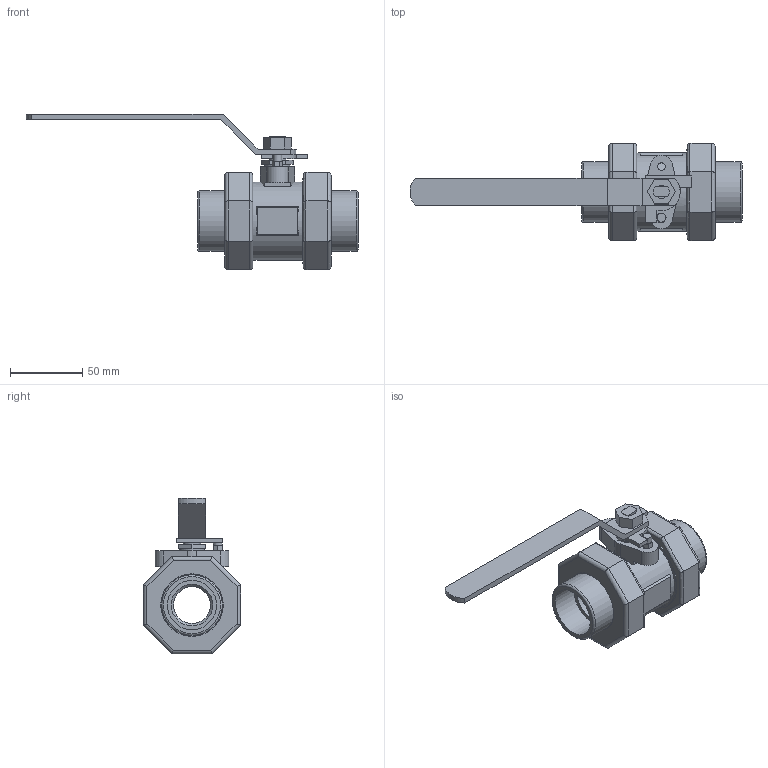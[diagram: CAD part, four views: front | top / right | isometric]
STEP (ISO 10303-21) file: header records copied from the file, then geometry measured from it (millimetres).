
FILE_DESCRIPTION((' '),'2;1');
FILE_NAME('N:\Technical Support\Private\Jomar Valve CAD\Ball Valves\CS and SS\2002N-DUE\1.0 S-CS[SS]-2002N-DUE (101-995 [101-985])FusionCopy.stp.step','2017-01-24T13:04:14',(' '),(' '),' ','ACIS',' ');
FILE_SCHEMA(('CONFIG_CONTROL_DESIGN'));
Length unit declared in the file: inch
Products named in the file (15): N:\Technical Support\Private\Jomar Valve CAD\Ball Valves\CS and SS\2002N-DUE\1.0 S-CS[SS]-2002N-DUE (101-995 [101-985])FusionCopy.stp.step; Body1; Body2; Body3; Body4; Body5; Body6; Body7; Body8; Body9; Body10; Body11; Body12; Body13; Body14
Assembly tree (14 placements, depth 2):
  N:\Technical Support\Private\Jomar Valve CAD\Ball Valves\CS and SS\2002N-DUE\1.0 S-CS[SS]-2002N-DUE (101-995 [101-985])FusionCopy.stp.step
    Body1
    Body2
    Body3
    Body4
    Body5
    Body6
    Body7
    Body8
    Body9
    Body10
    Body11
    Body12
    Body13
    Body14
Bounding box: 229.33 x 67.31 x 107.52 mm (x, y, z)
Volume: 225855.8 mm3; surface area: 80548.1 mm2
Topology: 14 solids, 14 shells, 203 faces, 439 edges, 279 vertices
Faces by surface type: plane 99, cylinder 51, bspline 51, torus 1, cone 1
Full cylindrical faces by diameter (mm): 5.334 x2, 6.02 x1, 6.223 x1, 9.271 x1, 11.938 x1, 17.399 x1, 25.4 x2, 28.702 x1, 34.036 x1, 34.671 x2, 40.64 x2, 41.91 x1, 42.926 x1, 43.18 x1, 45.212 x1, 49.835 x1, 53.975 x1, 56.617 x1, 58.42 x1
Entity records: 7824 total; most frequent: CARTESIAN_POINT 1455, DIRECTION 895, ORIENTED_EDGE 794, EDGE_CURVE 397, AXIS2_PLACEMENT_3D 319, EDGE_LOOP 279, VERTEX_POINT 272, VECTOR 257
